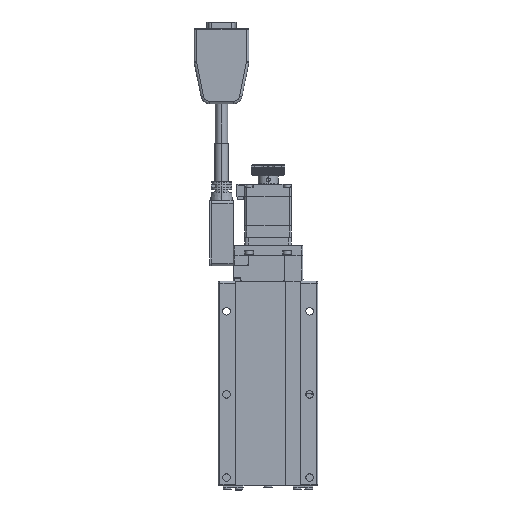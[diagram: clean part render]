
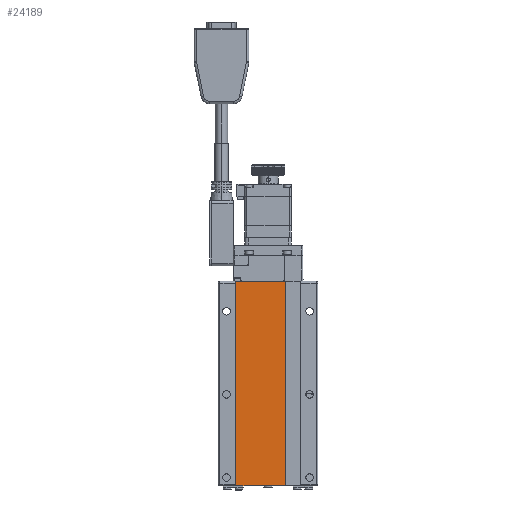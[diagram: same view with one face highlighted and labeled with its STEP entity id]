
A CAD part, front view. The second image highlights one B-rep face of the part: STEP entity #24189.
In plain terms, the highlighted planar face has unit normal (0, -1, 0).
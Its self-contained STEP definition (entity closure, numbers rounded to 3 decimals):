
#2988 = ORIENTED_EDGE ( 'NONE', *, *, #25795, .T. ) ;
#3507 = VERTEX_POINT ( 'NONE', #66781 ) ;
#15015 = VECTOR ( 'NONE', #87236, 1000. ) ;
#19099 = CARTESIAN_POINT ( 'NONE',  ( -19.3, 0.3, -61.3 ) ) ;
#24189 = ADVANCED_FACE ( 'NONE', ( #44957 ), #51183, .F. ) ;
#25795 = EDGE_CURVE ( 'NONE', #96479, #83603, #50603, .T. ) ;
#27138 = CARTESIAN_POINT ( 'NONE',  ( -19.3, 0.3, 61.3 ) ) ;
#28303 = CARTESIAN_POINT ( 'NONE',  ( 10.3, 0.3, -61.3 ) ) ;
#32931 = ORIENTED_EDGE ( 'NONE', *, *, #88385, .T. ) ;
#37951 = VECTOR ( 'NONE', #56830, 1000. ) ;
#39253 = ORIENTED_EDGE ( 'NONE', *, *, #64499, .T. ) ;
#40748 = CARTESIAN_POINT ( 'NONE',  ( 10.3, 0.3, -61.3 ) ) ;
#44957 = FACE_OUTER_BOUND ( 'NONE', #48998, .T. ) ;
#48998 = EDGE_LOOP ( 'NONE', ( #32931, #2988, #39253, #70603 ) ) ;
#50603 = LINE ( 'NONE', #19099, #37951 ) ;
#51079 = CARTESIAN_POINT ( 'NONE',  ( -19.3, 0.3, -61.3 ) ) ;
#51183 = PLANE ( 'NONE',  #54725 ) ;
#52217 = DIRECTION ( 'NONE',  ( 0., 1., 0. ) ) ;
#54725 = AXIS2_PLACEMENT_3D ( 'NONE', #59455, #52217, #67194 ) ;
#56830 = DIRECTION ( 'NONE',  ( 1., 0., 0. ) ) ;
#58843 = DIRECTION ( 'NONE',  ( 0., 0., -1. ) ) ;
#59455 = CARTESIAN_POINT ( 'NONE',  ( -19.3, 0.3, 61.3 ) ) ;
#61944 = CARTESIAN_POINT ( 'NONE',  ( -19.3, 0.3, 61.3 ) ) ;
#63452 = VECTOR ( 'NONE', #98593, 1000. ) ;
#64499 = EDGE_CURVE ( 'NONE', #83603, #3507, #91888, .T. ) ;
#66781 = CARTESIAN_POINT ( 'NONE',  ( 10.3, 0.3, 61.3 ) ) ;
#67194 = DIRECTION ( 'NONE',  ( -1., 0., 0. ) ) ;
#70603 = ORIENTED_EDGE ( 'NONE', *, *, #74902, .T. ) ;
#72484 = VERTEX_POINT ( 'NONE', #27138 ) ;
#74902 = EDGE_CURVE ( 'NONE', #3507, #72484, #85711, .T. ) ;
#83603 = VERTEX_POINT ( 'NONE', #40748 ) ;
#85711 = LINE ( 'NONE', #61944, #15015 ) ;
#87236 = DIRECTION ( 'NONE',  ( -1., 0., 0. ) ) ;
#88385 = EDGE_CURVE ( 'NONE', #72484, #96479, #98115, .T. ) ;
#91888 = LINE ( 'NONE', #28303, #63452 ) ;
#96479 = VERTEX_POINT ( 'NONE', #99939 ) ;
#98115 = LINE ( 'NONE', #51079, #101597 ) ;
#98593 = DIRECTION ( 'NONE',  ( 0., 0., 1. ) ) ;
#99939 = CARTESIAN_POINT ( 'NONE',  ( -19.3, 0.3, -61.3 ) ) ;
#101597 = VECTOR ( 'NONE', #58843, 1000. ) ;
